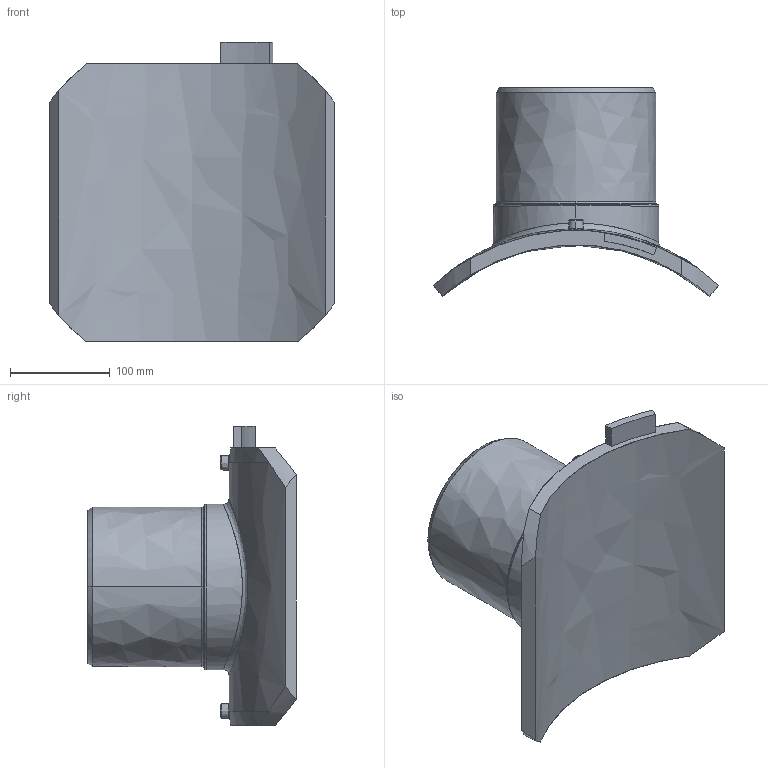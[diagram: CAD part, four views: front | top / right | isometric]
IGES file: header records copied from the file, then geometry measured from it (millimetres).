
Start section:  PTC IGES file: sa-uni_d400_160_01.igs
Global section: file name: sa-uni_d400_160_01.igs; native system: Pro/ENGINEER by Parametric Technology Corporation; preprocessor: 2011490; author: MikulicP; organization: Unknown; date: 20170203.134713; units: millimetre
Bounding box: 287 x 209.39 x 301 mm (x, y, z)
Surface area: 328617.4 mm2 (no closed solid volume)
Topology: 0 solids, 0 shells, 206 faces, 1018 edges, 1016 vertices
Faces by surface type: bspline 206
